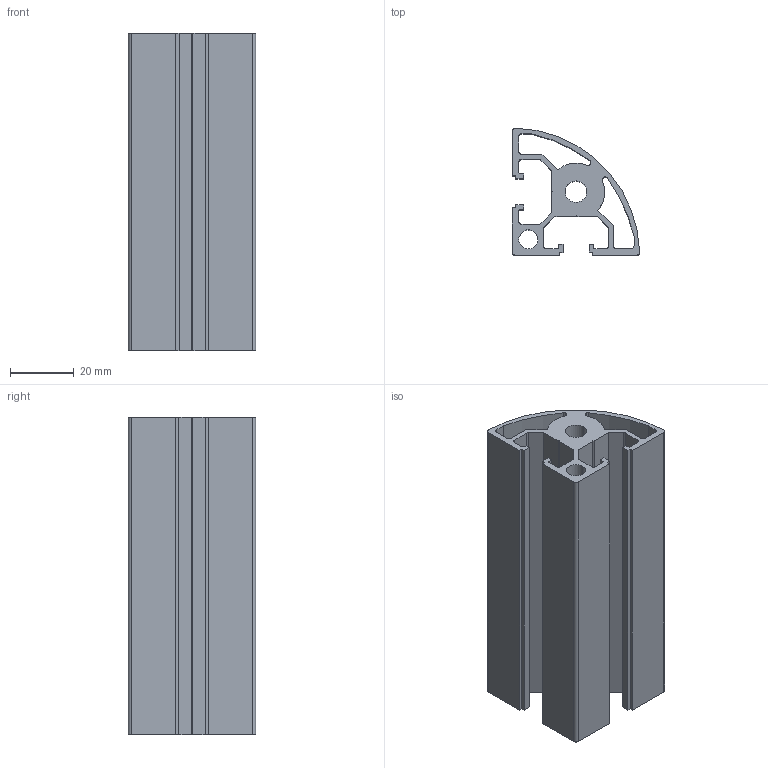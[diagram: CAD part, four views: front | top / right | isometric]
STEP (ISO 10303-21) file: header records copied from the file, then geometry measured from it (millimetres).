
FILE_DESCRIPTION (( 'STEP AP203' ), '1' );
FILE_NAME ('LIMA-4040CR-8.STEP', '2018-03-15T12:29:12', ( '' ), ( '' ), 'SwSTEP 2.0', 'SolidWorks 2013', '' );
FILE_SCHEMA (( 'CONFIG_CONTROL_DESIGN' ));
Length unit declared in the file: millimetre
Products named in the file (1): LIMA-4040CR-8
Bounding box: 39.99 x 39.99 x 100 mm (x, y, z)
Volume: 51446 mm3; surface area: 40518.3 mm2
Topology: 1 solids, 1 shells, 86 faces, 252 edges, 168 vertices
Faces by surface type: plane 54, cylinder 32
Entity records: 2953 total; most frequent: CARTESIAN_POINT 507, ORIENTED_EDGE 504, DIRECTION 490, EDGE_CURVE 252, LINE 188, VECTOR 188, VERTEX_POINT 168, AXIS2_PLACEMENT_3D 151
